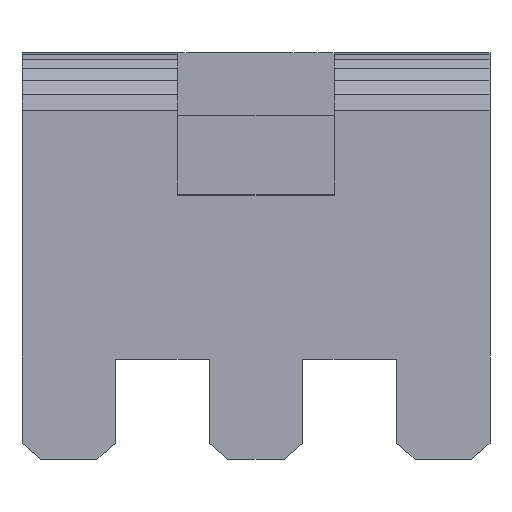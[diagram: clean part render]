
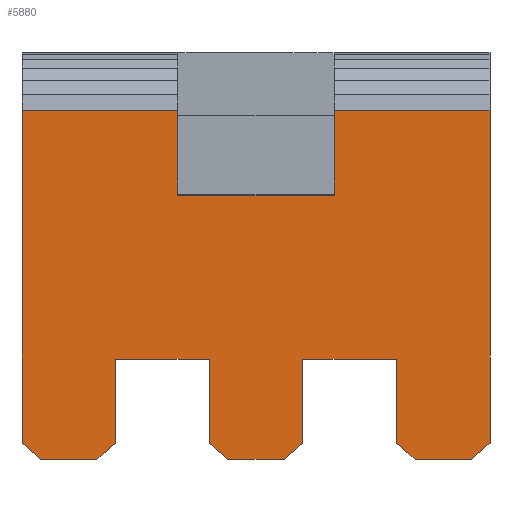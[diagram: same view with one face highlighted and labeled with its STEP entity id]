
A CAD part, front view. The second image highlights one B-rep face of the part: STEP entity #5880.
In plain terms, the highlighted planar face has unit normal (0, -1, 0).
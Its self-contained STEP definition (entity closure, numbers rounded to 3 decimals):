
#5205 = VERTEX_POINT('',#5206);
#5206 = CARTESIAN_POINT('',(2.498,-6.54,5.252));
#5211 = EDGE_CURVE('',#5212,#5205,#5214,.T.);
#5212 = VERTEX_POINT('',#5213);
#5213 = CARTESIAN_POINT('',(2.498,-6.54,7.963));
#5214 = LINE('',#5215,#5216);
#5215 = CARTESIAN_POINT('',(2.498,-6.54,7.963));
#5216 = VECTOR('',#5217,1.);
#5217 = DIRECTION('',(0.,0.,-1.));
#5241 = VERTEX_POINT('',#5242);
#5242 = CARTESIAN_POINT('',(-2.498,-6.54,5.252));
#5247 = EDGE_CURVE('',#5205,#5241,#5248,.T.);
#5248 = LINE('',#5249,#5250);
#5249 = CARTESIAN_POINT('',(2.498,-6.54,5.252));
#5250 = VECTOR('',#5251,1.);
#5251 = DIRECTION('',(-1.,0.,0.));
#5271 = VERTEX_POINT('',#5272);
#5272 = CARTESIAN_POINT('',(-2.498,-6.54,7.963));
#5277 = EDGE_CURVE('',#5241,#5271,#5278,.T.);
#5278 = LINE('',#5279,#5280);
#5279 = CARTESIAN_POINT('',(-2.498,-6.54,5.252));
#5280 = VECTOR('',#5281,1.);
#5281 = DIRECTION('',(0.,0.,1.));
#5301 = VERTEX_POINT('',#5302);
#5302 = CARTESIAN_POINT('',(-7.493,-6.54,7.963));
#5307 = EDGE_CURVE('',#5271,#5301,#5308,.T.);
#5308 = LINE('',#5309,#5310);
#5309 = CARTESIAN_POINT('',(-2.498,-6.54,7.963));
#5310 = VECTOR('',#5311,1.);
#5311 = DIRECTION('',(-1.,0.,0.));
#5331 = VERTEX_POINT('',#5332);
#5332 = CARTESIAN_POINT('',(-7.493,-6.54,-2.692));
#5337 = EDGE_CURVE('',#5301,#5331,#5338,.T.);
#5338 = LINE('',#5339,#5340);
#5339 = CARTESIAN_POINT('',(-7.493,-6.54,7.963));
#5340 = VECTOR('',#5341,1.);
#5341 = DIRECTION('',(0.,0.,-1.));
#5361 = VERTEX_POINT('',#5362);
#5362 = CARTESIAN_POINT('',(-6.894,-6.54,-3.2));
#5367 = EDGE_CURVE('',#5331,#5361,#5368,.T.);
#5368 = LINE('',#5369,#5370);
#5369 = CARTESIAN_POINT('',(-7.493,-6.54,-2.692));
#5370 = VECTOR('',#5371,1.);
#5371 = DIRECTION('',(0.763,0.,-0.647));
#5391 = VERTEX_POINT('',#5392);
#5392 = CARTESIAN_POINT('',(-5.095,-6.54,-3.2));
#5397 = EDGE_CURVE('',#5361,#5391,#5398,.T.);
#5398 = LINE('',#5399,#5400);
#5399 = CARTESIAN_POINT('',(-6.894,-6.54,-3.2));
#5400 = VECTOR('',#5401,1.);
#5401 = DIRECTION('',(1.,0.,0.));
#5421 = VERTEX_POINT('',#5422);
#5422 = CARTESIAN_POINT('',(-4.496,-6.54,-2.692));
#5427 = EDGE_CURVE('',#5391,#5421,#5428,.T.);
#5428 = LINE('',#5429,#5430);
#5429 = CARTESIAN_POINT('',(-5.095,-6.54,-3.2));
#5430 = VECTOR('',#5431,1.);
#5431 = DIRECTION('',(0.763,0.,0.647));
#5451 = VERTEX_POINT('',#5452);
#5452 = CARTESIAN_POINT('',(-4.496,-6.54,0.));
#5457 = EDGE_CURVE('',#5421,#5451,#5458,.T.);
#5458 = LINE('',#5459,#5460);
#5459 = CARTESIAN_POINT('',(-4.496,-6.54,-2.692));
#5460 = VECTOR('',#5461,1.);
#5461 = DIRECTION('',(0.,0.,1.));
#5481 = VERTEX_POINT('',#5482);
#5482 = CARTESIAN_POINT('',(-1.499,-6.54,0.));
#5487 = EDGE_CURVE('',#5451,#5481,#5488,.T.);
#5488 = LINE('',#5489,#5490);
#5489 = CARTESIAN_POINT('',(-4.496,-6.54,0.));
#5490 = VECTOR('',#5491,1.);
#5491 = DIRECTION('',(1.,0.,0.));
#5511 = VERTEX_POINT('',#5512);
#5512 = CARTESIAN_POINT('',(-1.499,-6.54,-2.692));
#5517 = EDGE_CURVE('',#5481,#5511,#5518,.T.);
#5518 = LINE('',#5519,#5520);
#5519 = CARTESIAN_POINT('',(-1.499,-6.54,0.));
#5520 = VECTOR('',#5521,1.);
#5521 = DIRECTION('',(0.,0.,-1.));
#5541 = VERTEX_POINT('',#5542);
#5542 = CARTESIAN_POINT('',(-0.899,-6.54,-3.2));
#5547 = EDGE_CURVE('',#5511,#5541,#5548,.T.);
#5548 = LINE('',#5549,#5550);
#5549 = CARTESIAN_POINT('',(-1.499,-6.54,-2.692));
#5550 = VECTOR('',#5551,1.);
#5551 = DIRECTION('',(0.763,0.,-0.647));
#5571 = VERTEX_POINT('',#5572);
#5572 = CARTESIAN_POINT('',(0.899,-6.54,-3.2));
#5577 = EDGE_CURVE('',#5541,#5571,#5578,.T.);
#5578 = LINE('',#5579,#5580);
#5579 = CARTESIAN_POINT('',(-0.899,-6.54,-3.2));
#5580 = VECTOR('',#5581,1.);
#5581 = DIRECTION('',(1.,0.,0.));
#5601 = VERTEX_POINT('',#5602);
#5602 = CARTESIAN_POINT('',(1.499,-6.54,-2.692));
#5607 = EDGE_CURVE('',#5571,#5601,#5608,.T.);
#5608 = LINE('',#5609,#5610);
#5609 = CARTESIAN_POINT('',(0.899,-6.54,-3.2));
#5610 = VECTOR('',#5611,1.);
#5611 = DIRECTION('',(0.763,0.,0.647));
#5631 = VERTEX_POINT('',#5632);
#5632 = CARTESIAN_POINT('',(1.499,-6.54,0.));
#5637 = EDGE_CURVE('',#5601,#5631,#5638,.T.);
#5638 = LINE('',#5639,#5640);
#5639 = CARTESIAN_POINT('',(1.499,-6.54,-2.692));
#5640 = VECTOR('',#5641,1.);
#5641 = DIRECTION('',(0.,0.,1.));
#5661 = VERTEX_POINT('',#5662);
#5662 = CARTESIAN_POINT('',(4.496,-6.54,0.));
#5667 = EDGE_CURVE('',#5631,#5661,#5668,.T.);
#5668 = LINE('',#5669,#5670);
#5669 = CARTESIAN_POINT('',(1.499,-6.54,0.));
#5670 = VECTOR('',#5671,1.);
#5671 = DIRECTION('',(1.,0.,0.));
#5691 = VERTEX_POINT('',#5692);
#5692 = CARTESIAN_POINT('',(4.496,-6.54,-2.692));
#5697 = EDGE_CURVE('',#5661,#5691,#5698,.T.);
#5698 = LINE('',#5699,#5700);
#5699 = CARTESIAN_POINT('',(4.496,-6.54,0.));
#5700 = VECTOR('',#5701,1.);
#5701 = DIRECTION('',(0.,0.,-1.));
#5721 = VERTEX_POINT('',#5722);
#5722 = CARTESIAN_POINT('',(5.095,-6.54,-3.2));
#5727 = EDGE_CURVE('',#5691,#5721,#5728,.T.);
#5728 = LINE('',#5729,#5730);
#5729 = CARTESIAN_POINT('',(4.496,-6.54,-2.692));
#5730 = VECTOR('',#5731,1.);
#5731 = DIRECTION('',(0.763,0.,-0.647));
#5751 = VERTEX_POINT('',#5752);
#5752 = CARTESIAN_POINT('',(6.894,-6.54,-3.2));
#5757 = EDGE_CURVE('',#5721,#5751,#5758,.T.);
#5758 = LINE('',#5759,#5760);
#5759 = CARTESIAN_POINT('',(5.095,-6.54,-3.2));
#5760 = VECTOR('',#5761,1.);
#5761 = DIRECTION('',(1.,0.,0.));
#5781 = VERTEX_POINT('',#5782);
#5782 = CARTESIAN_POINT('',(7.493,-6.54,-2.692));
#5787 = EDGE_CURVE('',#5751,#5781,#5788,.T.);
#5788 = LINE('',#5789,#5790);
#5789 = CARTESIAN_POINT('',(6.894,-6.54,-3.2));
#5790 = VECTOR('',#5791,1.);
#5791 = DIRECTION('',(0.763,0.,0.647));
#5811 = VERTEX_POINT('',#5812);
#5812 = CARTESIAN_POINT('',(7.493,-6.54,7.963));
#5817 = EDGE_CURVE('',#5781,#5811,#5818,.T.);
#5818 = LINE('',#5819,#5820);
#5819 = CARTESIAN_POINT('',(7.493,-6.54,-2.692));
#5820 = VECTOR('',#5821,1.);
#5821 = DIRECTION('',(0.,0.,1.));
#5839 = EDGE_CURVE('',#5811,#5212,#5840,.T.);
#5840 = LINE('',#5841,#5842);
#5841 = CARTESIAN_POINT('',(7.493,-6.54,7.963));
#5842 = VECTOR('',#5843,1.);
#5843 = DIRECTION('',(-1.,0.,0.));
#5880 = ADVANCED_FACE('',(#5881),#5905,.T.);
#5881 = FACE_BOUND('',#5882,.T.);
#5882 = EDGE_LOOP('',(#5883,#5884,#5885,#5886,#5887,#5888,#5889,#5890,
    #5891,#5892,#5893,#5894,#5895,#5896,#5897,#5898,#5899,#5900,#5901,
    #5902,#5903,#5904));
#5883 = ORIENTED_EDGE('',*,*,#5211,.T.);
#5884 = ORIENTED_EDGE('',*,*,#5247,.T.);
#5885 = ORIENTED_EDGE('',*,*,#5277,.T.);
#5886 = ORIENTED_EDGE('',*,*,#5307,.T.);
#5887 = ORIENTED_EDGE('',*,*,#5337,.T.);
#5888 = ORIENTED_EDGE('',*,*,#5367,.T.);
#5889 = ORIENTED_EDGE('',*,*,#5397,.T.);
#5890 = ORIENTED_EDGE('',*,*,#5427,.T.);
#5891 = ORIENTED_EDGE('',*,*,#5457,.T.);
#5892 = ORIENTED_EDGE('',*,*,#5487,.T.);
#5893 = ORIENTED_EDGE('',*,*,#5517,.T.);
#5894 = ORIENTED_EDGE('',*,*,#5547,.T.);
#5895 = ORIENTED_EDGE('',*,*,#5577,.T.);
#5896 = ORIENTED_EDGE('',*,*,#5607,.T.);
#5897 = ORIENTED_EDGE('',*,*,#5637,.T.);
#5898 = ORIENTED_EDGE('',*,*,#5667,.T.);
#5899 = ORIENTED_EDGE('',*,*,#5697,.T.);
#5900 = ORIENTED_EDGE('',*,*,#5727,.T.);
#5901 = ORIENTED_EDGE('',*,*,#5757,.T.);
#5902 = ORIENTED_EDGE('',*,*,#5787,.T.);
#5903 = ORIENTED_EDGE('',*,*,#5817,.T.);
#5904 = ORIENTED_EDGE('',*,*,#5839,.T.);
#5905 = PLANE('',#5906);
#5906 = AXIS2_PLACEMENT_3D('',#5907,#5908,#5909);
#5907 = CARTESIAN_POINT('',(2.498,-6.54,7.963));
#5908 = DIRECTION('',(0.,-1.,-0.));
#5909 = DIRECTION('',(-0.684,0.,-0.73));
